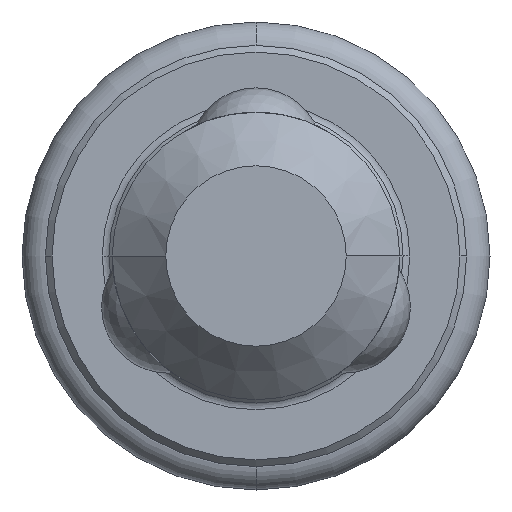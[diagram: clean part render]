
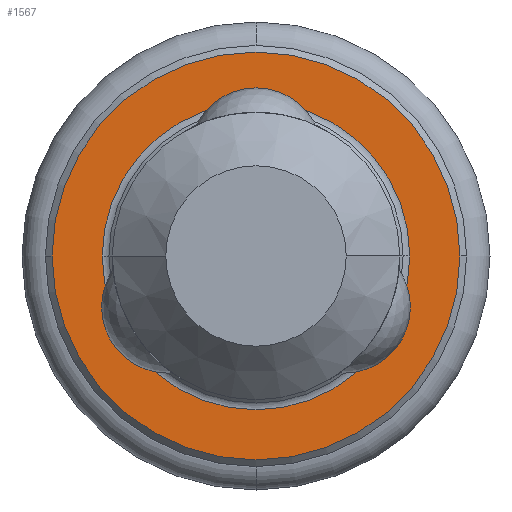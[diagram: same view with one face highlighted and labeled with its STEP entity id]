
A CAD part, front view. The second image highlights one B-rep face of the part: STEP entity #1567.
In plain terms, the highlighted planar face has unit normal (0, -1, 0).
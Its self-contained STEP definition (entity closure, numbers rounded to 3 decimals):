
#102 = FACE_BOUND ( 'NONE', #2789, .T. ) ;
#241 = CARTESIAN_POINT ( 'NONE',  ( 0., -7., 0. ) ) ;
#246 = AXIS2_PLACEMENT_3D ( 'NONE', #1486, #580, #2138 ) ;
#263 = EDGE_LOOP ( 'NONE', ( #1783, #1247 ) ) ;
#384 = CIRCLE ( 'NONE', #2746, 15.25 ) ;
#462 = CARTESIAN_POINT ( 'NONE',  ( -15.25, -7., 0. ) ) ;
#580 = DIRECTION ( 'NONE',  ( 0., 1., 0. ) ) ;
#582 = VERTEX_POINT ( 'NONE', #462 ) ;
#627 = EDGE_CURVE ( 'NONE', #582, #2397, #384, .T. ) ;
#645 = CARTESIAN_POINT ( 'NONE',  ( 15.25, -7., 0. ) ) ;
#692 = CARTESIAN_POINT ( 'NONE',  ( 0., -7., 0. ) ) ;
#705 = DIRECTION ( 'NONE',  ( -1., 0., 0. ) ) ;
#714 = EDGE_CURVE ( 'NONE', #2338, #743, #1132, .T. ) ;
#734 = CARTESIAN_POINT ( 'NONE',  ( 0., -7., 0. ) ) ;
#743 = VERTEX_POINT ( 'NONE', #1423 ) ;
#1132 = CIRCLE ( 'NONE', #2699, 11.5 ) ;
#1157 = DIRECTION ( 'NONE',  ( -1., 0., 0. ) ) ;
#1247 = ORIENTED_EDGE ( 'NONE', *, *, #2087, .T. ) ;
#1366 = ORIENTED_EDGE ( 'NONE', *, *, #2640, .T. ) ;
#1381 = CARTESIAN_POINT ( 'NONE',  ( 0., -7., 0. ) ) ;
#1406 = DIRECTION ( 'NONE',  ( -1., 0., 0. ) ) ;
#1420 = AXIS2_PLACEMENT_3D ( 'NONE', #1381, #1579, #705 ) ;
#1423 = CARTESIAN_POINT ( 'NONE',  ( 11.5, -7., 0. ) ) ;
#1486 = CARTESIAN_POINT ( 'NONE',  ( 15.75, -7., 0. ) ) ;
#1521 = CIRCLE ( 'NONE', #1420, 15.25 ) ;
#1567 = ADVANCED_FACE ( 'NONE', ( #1863, #102 ), #1713, .F. ) ;
#1579 = DIRECTION ( 'NONE',  ( 0., -1., 0. ) ) ;
#1712 = ORIENTED_EDGE ( 'NONE', *, *, #714, .T. ) ;
#1713 = PLANE ( 'NONE',  #246 ) ;
#1783 = ORIENTED_EDGE ( 'NONE', *, *, #627, .T. ) ;
#1844 = DIRECTION ( 'NONE',  ( -1., 0., 0. ) ) ;
#1863 = FACE_OUTER_BOUND ( 'NONE', #263, .T. ) ;
#1907 = CIRCLE ( 'NONE', #2859, 11.5 ) ;
#2087 = EDGE_CURVE ( 'NONE', #2397, #582, #1521, .T. ) ;
#2095 = DIRECTION ( 'NONE',  ( 0., 1., 0. ) ) ;
#2138 = DIRECTION ( 'NONE',  ( -1., 0., 0. ) ) ;
#2148 = CARTESIAN_POINT ( 'NONE',  ( -11.5, -7., 0. ) ) ;
#2338 = VERTEX_POINT ( 'NONE', #2148 ) ;
#2397 = VERTEX_POINT ( 'NONE', #645 ) ;
#2640 = EDGE_CURVE ( 'NONE', #743, #2338, #1907, .T. ) ;
#2699 = AXIS2_PLACEMENT_3D ( 'NONE', #734, #2095, #1406 ) ;
#2726 = DIRECTION ( 'NONE',  ( 0., 1., 0. ) ) ;
#2746 = AXIS2_PLACEMENT_3D ( 'NONE', #692, #2762, #1157 ) ;
#2762 = DIRECTION ( 'NONE',  ( 0., -1., 0. ) ) ;
#2789 = EDGE_LOOP ( 'NONE', ( #1712, #1366 ) ) ;
#2859 = AXIS2_PLACEMENT_3D ( 'NONE', #241, #2726, #1844 ) ;
